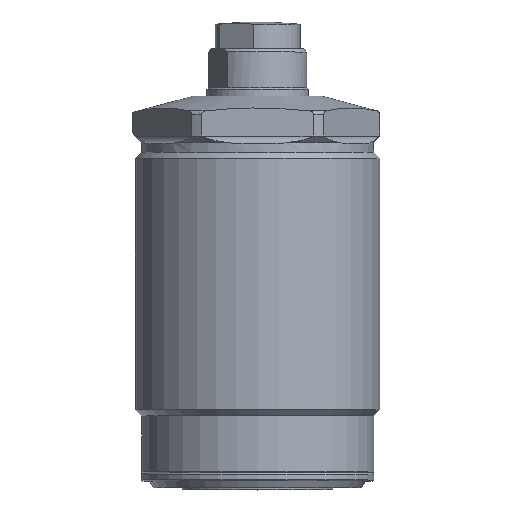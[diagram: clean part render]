
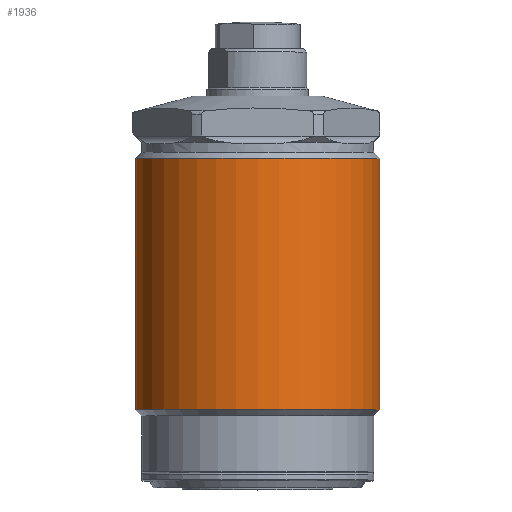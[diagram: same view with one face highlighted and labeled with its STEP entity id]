
A CAD part, top view. The second image highlights one B-rep face of the part: STEP entity #1936.
In plain terms, the highlighted cylindrical face has radius 18 mm (diameter 36 mm), a full revolution.
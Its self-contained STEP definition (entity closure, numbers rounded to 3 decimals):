
#1899=CYLINDRICAL_SURFACE('',#6218,18.);
#1936=ADVANCED_FACE('',(#2365,#2366),#1899,.T.);
#2365=FACE_BOUND('',#2460,.T.);
#2366=FACE_BOUND('',#2461,.T.);
#2460=EDGE_LOOP('',(#2873));
#2461=EDGE_LOOP('',(#2874));
#2781=CIRCLE('',#6214,18.);
#2783=CIRCLE('',#6217,18.);
#2873=ORIENTED_EDGE('',*,*,#4666,.F.);
#2874=ORIENTED_EDGE('',*,*,#4664,.T.);
#4206=VERTEX_POINT('',#7589);
#4208=VERTEX_POINT('',#7594);
#4664=EDGE_CURVE('',#4206,#4206,#2781,.T.);
#4666=EDGE_CURVE('',#4208,#4208,#2783,.T.);
#6214=AXIS2_PLACEMENT_3D('',#7588,#6537,#6538);
#6217=AXIS2_PLACEMENT_3D('',#7593,#6543,#6544);
#6218=AXIS2_PLACEMENT_3D('',#7595,#6545,#6546);
#6537=DIRECTION('',(0.,-1.,0.));
#6538=DIRECTION('',(0.,0.,-1.));
#6543=DIRECTION('',(0.,-1.,0.));
#6544=DIRECTION('',(0.,0.,-1.));
#6545=DIRECTION('',(0.,-1.,0.));
#6546=DIRECTION('',(0.,0.,1.));
#7588=CARTESIAN_POINT('',(-11.03,48.8,0.));
#7589=CARTESIAN_POINT('',(-11.03,48.8,-18.));
#7593=CARTESIAN_POINT('',(-11.03,11.825,0.));
#7594=CARTESIAN_POINT('',(-11.03,11.825,-18.));
#7595=CARTESIAN_POINT('',(-11.03,-3.381,0.));
